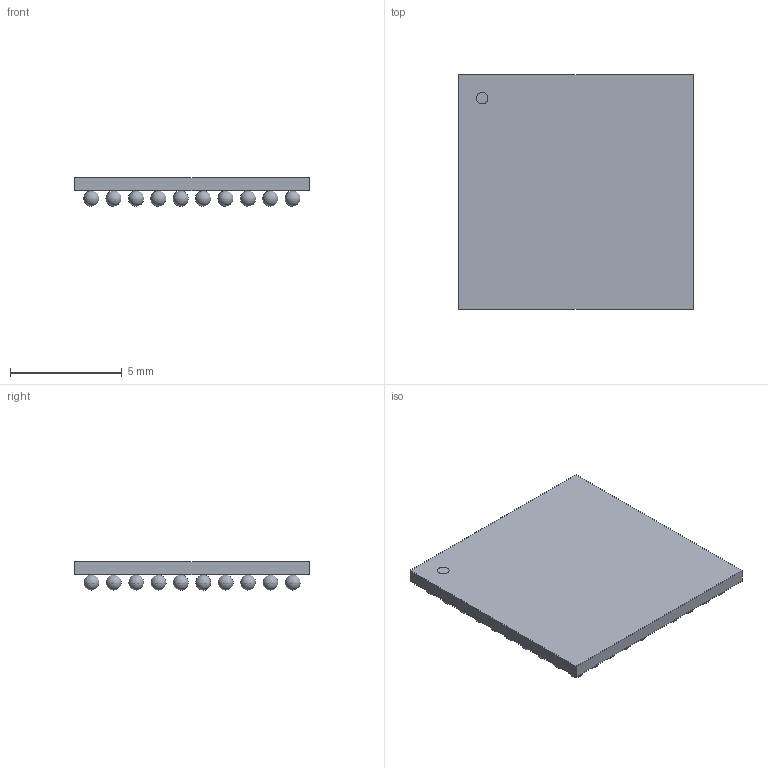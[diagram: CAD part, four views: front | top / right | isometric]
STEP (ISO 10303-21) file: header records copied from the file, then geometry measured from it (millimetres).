
FILE_DESCRIPTION(('STEP AP214'),'1');
FILE_NAME('BGA_546-00-LGIZ_VIC','2024-04-08T04:24:19',(''),(''),'','','');
FILE_SCHEMA(('AUTOMOTIVE_DESIGN'));
Length unit declared in the file: millimetre
Products named in the file (1): product
Bounding box: 10.49 x 10.49 x 1.27 mm (x, y, z)
Volume: 78.6 mm3; surface area: 369.2 mm2
Topology: 86 solids, 86 shells, 93 faces, 267 edges, 178 vertices
Faces by surface type: sphere 84, plane 8, cylinder 1
Full cylindrical faces by diameter (mm): 0.525 x1
Entity records: 1129 total; most frequent: DIRECTION 206, CARTESIAN_POINT 107, AXIS2_PLACEMENT_3D 97, STYLED_ITEM 93, ADVANCED_FACE 93, MANIFOLD_SOLID_BREP 86, CLOSED_SHELL 86, SPHERICAL_SURFACE 84
